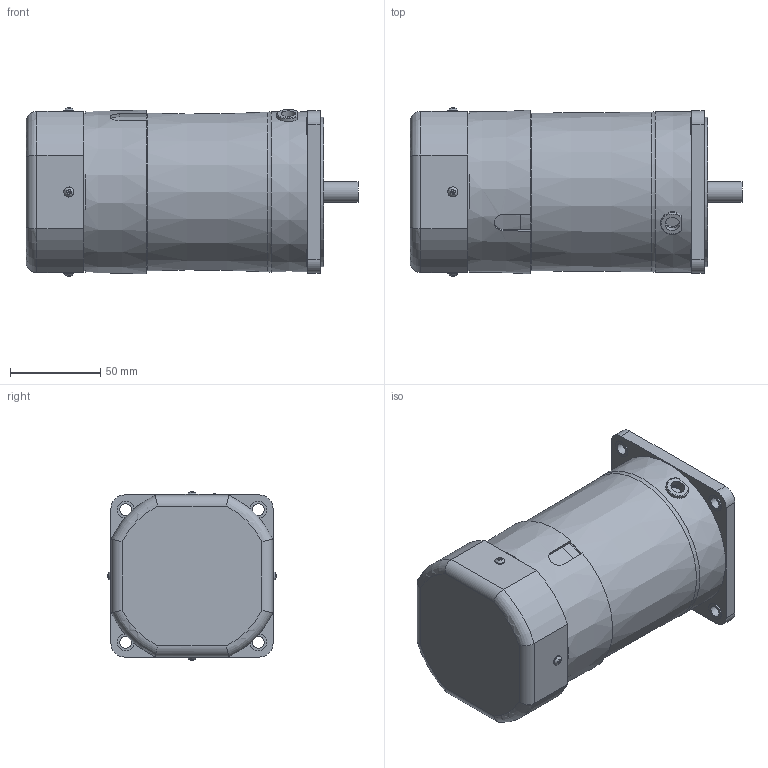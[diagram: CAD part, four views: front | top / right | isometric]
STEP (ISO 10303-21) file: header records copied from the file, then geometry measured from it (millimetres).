
FILE_DESCRIPTION((''),'2;1');
FILE_NAME('D:\김성묵\업무폴더\개발 파일\프로젝트 개발 AB등급\AC표준형 개발자료\90각 이하 표준형 개발\도면작성 자료\3D 도면\홈페이지용 3D 파일\60W MOTOR\BLACK TYPE\S9I60G-E.stp','2015-03-26T13:13:54',('smkim'),(''),'Autodesk Inventor 2012','Autodesk Inventor 2012','');
FILE_SCHEMA(('AUTOMOTIVE_DESIGN { 1 0 10303 214 1 1 1 1 }'));
Length unit declared in the file: millimetre
Products named in the file (7): S9I60G-E; S9I60GㅁCE; S9I60G; 6_CORD BUSH; 552300620; FAN COVER; 60W 전자BK COVER
Assembly tree (9 placements, depth 2):
  S9I60G-E
    S9I60GㅁCE
    S9I60G
    6_CORD BUSH
    552300620  x4
    FAN COVER
    60W 전자BK COVER
Bounding box: 184.3 x 93.49 x 93.49 mm (x, y, z)
Volume: 1173114.9 mm3; surface area: 116427.2 mm2
Topology: 9 solids, 10 shells, 241 faces, 560 edges, 363 vertices
Faces by surface type: plane 148, cylinder 61, cone 14, torus 14, bspline 4
Full cylindrical faces by diameter (mm): 3 x8, 3.5 x4, 5.6 x4, 6.5 x4, 8 x1, 9.5 x4, 10 x1, 11.5 x1, 28 x1, 34 x1, 40 x1, 60 x1, 66 x1, 80 x1, 83 x1, 86 x2, 86.3 x1
Entity records: 5382 total; most frequent: CARTESIAN_POINT 1275, DIRECTION 834, ORIENTED_EDGE 714, EDGE_CURVE 357, AXIS2_PLACEMENT_3D 329, EDGE_LOOP 261, VERTEX_POINT 260, FACE_OUTER_BOUND 178
